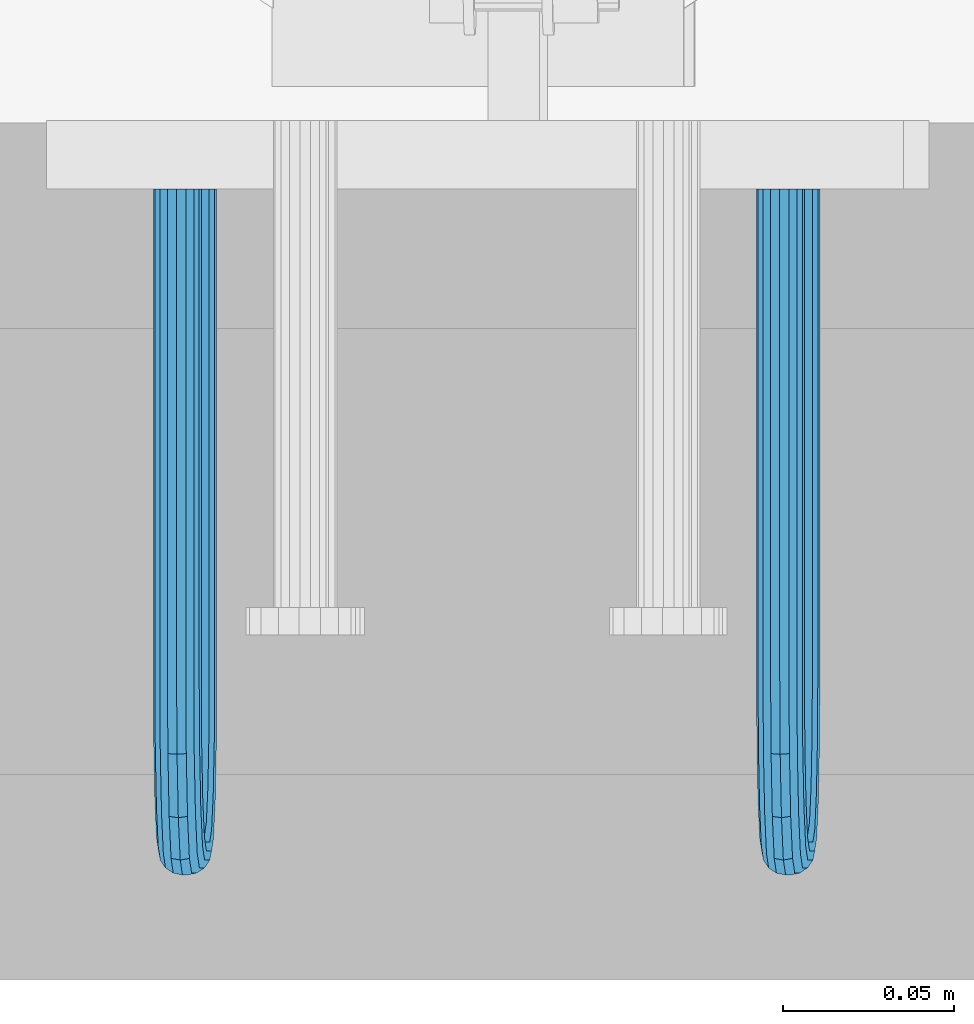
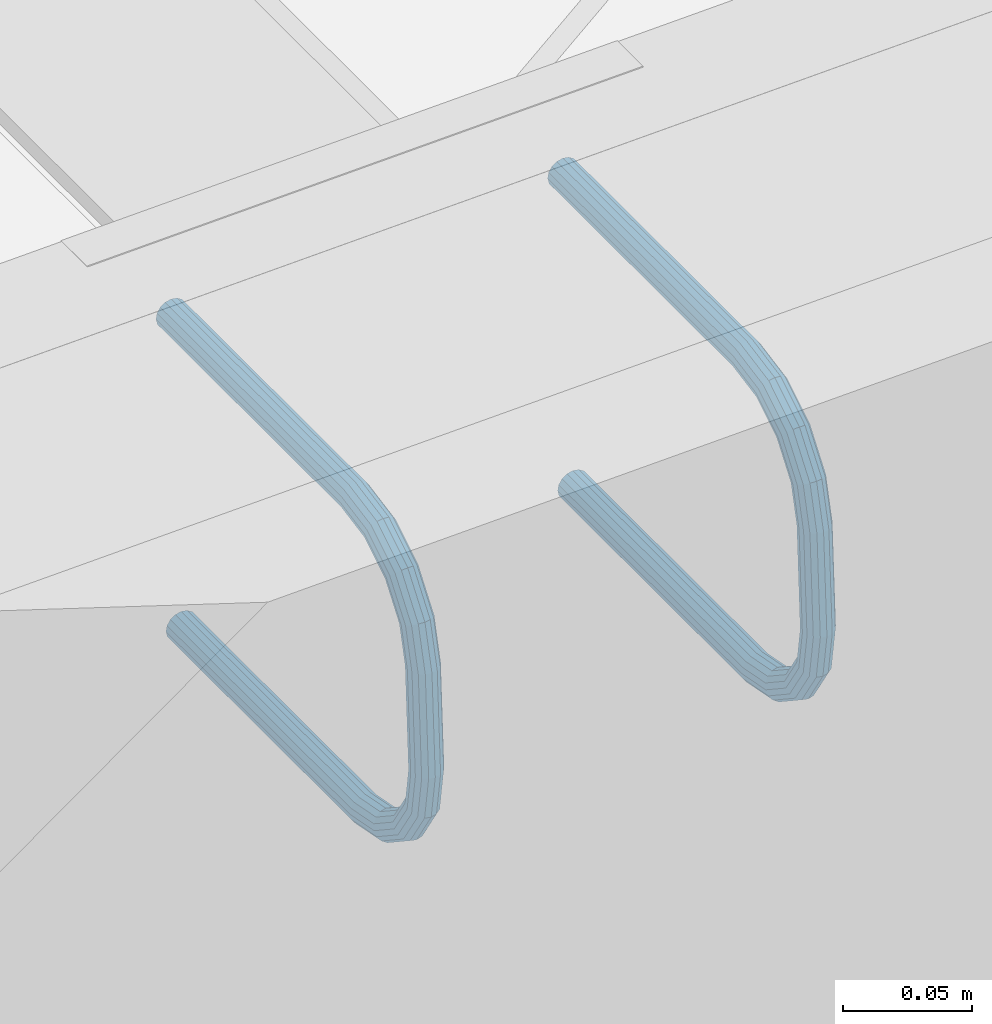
# One storey, part 81 of 476: 2 beams.
"""IFC2X3 building model written with IfcOpenShell, lengths in millimetres."""

from ifc_helpers import new_model, entity, si_unit, converted_unit, origin_with_axes, place, context, project, spatial, faceted_brep, material, element, save


model = new_model("IFC2X3")

# Units and contexts
model_context = context("Model", 3, precision=1e-09, world=origin_with_axes())
ifc_project = project(units=[si_unit("LENGTHUNIT", "METRE", prefix="MILLI"), si_unit("AREAUNIT", "SQUARE_METRE"), si_unit("VOLUMEUNIT", "CUBIC_METRE"), converted_unit("PLANEANGLEUNIT", "DEGREE", entity("IfcPlaneAngleMeasure", 0.01745329), si_unit("PLANEANGLEUNIT", "RADIAN"), dimensions=[0, 0, 0, 0, 0, 0, 0])], contexts=[model_context])

# Site, building, storey
site_placement = place(None, origin_with_axes())
site = spatial("IfcSite", under=ifc_project, at=site_placement, Name="mKR Teilneubau & Sanierung BA1 - Ostfildern", CompositionType="ELEMENT")
building_placement = place(site_placement, origin_with_axes())
building = spatial("IfcBuilding", under=site, at=building_placement, Name="Struktur 1", CompositionType="ELEMENT")
storey_placement = place(building_placement, origin_with_axes())
storey = spatial("IfcBuildingStorey", under=building, at=storey_placement, Name="Default Storey", CompositionType="ELEMENT", Elevation=0.0)

# Beams
ifc_material = material(Name="S235JR")
beam_1_placement = place(None, origin_with_axes())
element("IfcBeam", 1, at=beam_1_placement, inside=storey, material=ifc_material, Name="-", ObjectType="-", context=model_context, shape_type="Brep", body=[
    faceted_brep([(18425.706720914, -23549.67387897, 5400.497229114), (18427.931073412, -23549.67387897, 5402.082177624), (18430.592640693, -23549.67387897, 5402.695256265), (18433.286223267, -23549.67387897, 5402.24312937), (18435.601747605, -23549.67387897, 5400.794629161), (18437.186696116, -23549.67387897, 5398.570276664), (18437.799774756, -23549.67387897, 5395.908709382), (18437.347647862, -23549.67387897, 5393.215126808), (18435.899147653, -23549.67387897, 5390.89960247), (18433.674795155, -23549.67387897, 5389.314653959), (18431.013227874, -23549.67387897, 5388.701575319), (18428.319645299, -23549.67387897, 5389.153702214), (18426.004120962, -23549.67387897, 5390.602202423), (18424.419172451, -23549.67387897, 5392.82655492), (18423.80609381, -23549.67387897, 5395.488122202), (18424.258220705, -23549.67387897, 5398.181704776), (18423.813354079, -23549.67387897, 5539.085998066), (18421.497829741, -23549.67387897, 5540.534498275), (18419.912881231, -23549.67387897, 5542.758850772), (18419.29980259, -23549.67387897, 5545.420418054), (18419.751929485, -23549.67387897, 5548.114000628), (18421.200429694, -23549.67387897, 5550.429524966), (18423.424782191, -23549.67387897, 5552.014473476), (18426.086349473, -23549.67387897, 5552.627552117), (18428.779932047, -23549.67387897, 5552.175425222), (18431.095456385, -23549.67387897, 5550.726925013), (18432.680404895, -23549.67387897, 5548.502572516), (18433.293483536, -23549.67387897, 5545.841005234), (18432.841356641, -23549.67387897, 5543.14742266), (18431.392856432, -23549.67387897, 5540.831898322), (18429.168503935, -23549.67387897, 5539.246949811), (18426.506936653, -23549.67387897, 5538.633871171), (18425.706720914, -23692.67387897, 5400.497229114), (18427.931073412, -23692.67387897, 5402.082177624), (18424.258220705, -23692.67387897, 5398.181704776), (18423.80609381, -23692.67387897, 5395.488122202), (18424.419172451, -23692.67387897, 5392.82655492), (18426.004120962, -23692.67387897, 5390.602202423), (18428.319645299, -23692.67387897, 5389.153702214), (18431.013227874, -23692.67387897, 5388.701575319), (18433.674795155, -23692.67387897, 5389.314653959), (18435.899147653, -23692.67387897, 5390.89960247), (18437.347647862, -23692.67387897, 5393.215126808), (18437.799774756, -23692.67387897, 5395.908709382), (18437.186696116, -23692.67387897, 5398.570276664), (18435.601747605, -23692.67387897, 5400.794629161), (18433.286223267, -23692.67387897, 5402.24312937), (18430.592640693, -23692.67387897, 5402.695256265), (18425.603699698, -23709.913864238, 5403.924927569), (18427.831522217, -23709.333176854, 5405.394422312), (18424.150006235, -23710.782924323, 5401.782192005), (18423.691753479, -23711.808050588, 5399.292427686), (18424.298706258, -23712.833176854, 5396.834678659), (18425.878461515, -23713.702236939, 5394.783114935), (18428.190515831, -23714.282924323, 5393.450068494), (18430.882879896, -23714.486834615, 5393.038483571), (18433.545665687, -23714.282924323, 5393.61102024), (18435.773488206, -23713.702236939, 5395.080514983), (18437.227181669, -23712.833176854, 5397.223250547), (18437.685434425, -23711.808050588, 5399.713014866), (18437.078481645, -23710.782924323, 5402.170763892), (18435.498726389, -23709.913864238, 5404.222327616), (18433.186672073, -23709.333176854, 5405.555374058), (18430.494308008, -23709.129266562, 5405.966958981), (18425.310320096, -23724.52921803, 5413.686186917), (18427.5480244, -23723.456247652, 5414.826897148), (18423.841837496, -23726.135031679, 5412.035512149), (18423.366139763, -23728.02921803, 5410.126173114), (18423.955647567, -23729.92340438, 5408.248849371), (18425.520613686, -23731.52921803, 5406.689346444), (18427.822786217, -23732.602188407, 5405.685084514), (18430.51168026, -23732.978965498, 5405.388953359), (18433.177936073, -23732.602188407, 5405.84603626), (18435.415640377, -23731.52921803, 5406.986746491), (18436.884122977, -23729.92340438, 5408.637421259), (18437.35982071, -23728.02921803, 5410.546760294), (18436.770312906, -23726.135031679, 5412.424084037), (18435.205346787, -23724.52921803, 5413.983586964), (18432.903174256, -23723.456247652, 5414.987848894), (18430.214280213, -23723.079470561, 5415.283980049), (18424.871246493, -23734.294885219, 5428.294943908), (18427.123739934, -23732.892981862, 5428.943593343), (18423.380630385, -23736.392981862, 5427.380690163), (18422.878824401, -23738.867855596, 5426.340018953), (18423.442223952, -23741.34272933, 5425.331363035), (18424.985056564, -23743.440825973, 5424.50828113), (18427.272439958, -23744.84272933, 5423.996079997), (18429.956140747, -23745.335012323, 5423.872737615), (18432.627589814, -23744.84272933, 5424.157031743), (18434.880083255, -23743.440825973, 5424.805681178), (18436.370699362, -23741.34272933, 5425.719934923), (18436.872505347, -23738.867855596, 5426.760606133), (18436.309105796, -23736.392981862, 5427.769262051), (18434.766273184, -23734.294885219, 5428.592343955), (18432.47888979, -23732.892981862, 5429.104545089), (18429.795189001, -23732.400698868, 5429.227887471), (18424.353323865, -23737.724131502, 5445.527147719), (18426.623262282, -23736.206722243, 5445.59537187), (18422.836599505, -23739.995094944, 5445.481561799), (18422.303996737, -23742.67387897, 5445.465554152), (18422.836599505, -23745.352662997, 5445.481561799), (18424.353323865, -23747.623626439, 5445.527147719), (18426.623262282, -23749.141035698, 5445.59537187), (18429.30083721, -23749.67387897, 5445.675847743), (18431.978412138, -23749.141035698, 5445.756323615), (18434.248350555, -23747.623626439, 5445.824547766), (18435.765074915, -23745.352662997, 5445.870133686), (18436.297677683, -23742.67387897, 5445.886141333), (18435.765074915, -23739.995094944, 5445.870133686), (18434.248350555, -23737.724131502, 5445.824547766), (18431.978412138, -23736.206722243, 5445.756323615), (18429.30083721, -23735.67387897, 5445.675847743), (18422.851226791, -23737.724131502, 5495.504579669), (18425.121165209, -23736.206722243, 5495.57280382), (18421.334502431, -23739.995094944, 5495.458993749), (18420.801899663, -23742.67387897, 5495.442986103), (18421.334502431, -23745.352662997, 5495.458993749), (18422.851226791, -23747.623626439, 5495.504579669), (18425.121165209, -23749.141035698, 5495.57280382), (18427.798740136, -23749.67387897, 5495.653279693), (18430.476315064, -23749.141035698, 5495.733755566), (18432.746253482, -23747.623626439, 5495.801979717), (18434.262977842, -23745.352662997, 5495.847565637), (18434.79558061, -23742.67387897, 5495.863573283), (18434.262977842, -23739.995094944, 5495.847565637), (18432.746253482, -23737.724131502, 5495.801979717), (18430.476315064, -23736.206722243, 5495.733755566), (18427.798740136, -23735.67387897, 5495.653279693), (18422.333304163, -23734.294885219, 5512.73678348), (18424.620687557, -23732.892981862, 5512.224582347), (18420.790471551, -23736.392981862, 5513.559865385), (18420.227072, -23738.867855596, 5514.568521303), (18420.728877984, -23741.34272933, 5515.609192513), (18422.219494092, -23743.440825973, 5516.523446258), (18424.471987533, -23744.84272933, 5517.172095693), (18427.1434366, -23745.335012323, 5517.456389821), (18429.827137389, -23744.84272933, 5517.333047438), (18432.114520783, -23743.440825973, 5516.820846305), (18433.657353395, -23741.34272933, 5515.997764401), (18434.220752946, -23738.867855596, 5514.989108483), (18433.718946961, -23736.392981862, 5513.948437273), (18432.228330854, -23734.294885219, 5513.034183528), (18429.975837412, -23732.892981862, 5512.385534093), (18427.304388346, -23732.400698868, 5512.101239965), (18421.89423056, -23724.52921803, 5527.345540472), (18424.19640309, -23723.456247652, 5526.341278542), (18420.32926444, -23726.135031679, 5528.905043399), (18419.739756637, -23728.02921803, 5530.782367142), (18420.215454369, -23729.92340438, 5532.691706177), (18421.683936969, -23731.52921803, 5534.342380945), (18423.921641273, -23732.602188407, 5535.483091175), (18426.587897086, -23732.978965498, 5535.940174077), (18429.276791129, -23732.602188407, 5535.644042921), (18431.57896366, -23731.52921803, 5534.639780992), (18433.14392978, -23729.92340438, 5533.080278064), (18433.733437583, -23728.02921803, 5531.202954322), (18433.257739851, -23726.135031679, 5529.293615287), (18431.78925725, -23724.52921803, 5527.642940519), (18429.551552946, -23723.456247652, 5526.502230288), (18426.885297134, -23723.079470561, 5526.045147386), (18421.600850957, -23709.913864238, 5537.10679982), (18423.912905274, -23709.333176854, 5535.773753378), (18420.021095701, -23710.782924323, 5539.158363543), (18419.414142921, -23711.808050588, 5541.61611257), (18419.872395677, -23712.833176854, 5544.105876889), (18421.326089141, -23713.702236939, 5546.248612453), (18423.55391166, -23714.282924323, 5547.718107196), (18426.216697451, -23714.486834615, 5548.290643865), (18428.909061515, -23714.282924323, 5547.879058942), (18431.221115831, -23713.702236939, 5546.5460125), (18432.800871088, -23712.833176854, 5544.494448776), (18433.407823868, -23711.808050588, 5542.03669975), (18432.949571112, -23710.782924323, 5539.546935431), (18431.495877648, -23709.913864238, 5537.404199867), (18429.268055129, -23709.333176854, 5535.934705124), (18426.605269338, -23709.129266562, 5535.362168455), (18421.497829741, -23692.67387897, 5540.534498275), (18423.813354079, -23692.67387897, 5539.085998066), (18419.912881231, -23692.67387897, 5542.758850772), (18419.29980259, -23692.67387897, 5545.420418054), (18419.751929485, -23692.67387897, 5548.114000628), (18421.200429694, -23692.67387897, 5550.429524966), (18423.424782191, -23692.67387897, 5552.014473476), (18426.086349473, -23692.67387897, 5552.627552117), (18428.779932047, -23692.67387897, 5552.175425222), (18431.095456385, -23692.67387897, 5550.726925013), (18432.680404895, -23692.67387897, 5548.502572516), (18433.293483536, -23692.67387897, 5545.841005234), (18432.841356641, -23692.67387897, 5543.14742266), (18431.392856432, -23692.67387897, 5540.831898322), (18429.168503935, -23692.67387897, 5539.246949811), (18426.506936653, -23692.67387897, 5538.633871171)], [[[0, 1, 2, 3, 4, 5, 6, 7, 8, 9, 10, 11, 12, 13, 14, 15]], [[16, 17, 18, 19, 20, 21, 22, 23, 24, 25, 26, 27, 28, 29, 30, 31]], [[1, 0, 32, 33]], [[0, 15, 34, 32]], [[15, 14, 35, 34]], [[14, 13, 36, 35]], [[13, 12, 37, 36]], [[12, 11, 38, 37]], [[11, 10, 39, 38]], [[10, 9, 40, 39]], [[9, 8, 41, 40]], [[8, 7, 42, 41]], [[7, 6, 43, 42]], [[6, 5, 44, 43]], [[5, 4, 45, 44]], [[4, 3, 46, 45]], [[3, 2, 47, 46]], [[2, 1, 33, 47]], [[33, 32, 48, 49]], [[32, 34, 50, 48]], [[34, 35, 51, 50]], [[35, 36, 52, 51]], [[36, 37, 53, 52]], [[37, 38, 54, 53]], [[38, 39, 55, 54]], [[39, 40, 56, 55]], [[40, 41, 57, 56]], [[41, 42, 58, 57]], [[42, 43, 59, 58]], [[43, 44, 60, 59]], [[44, 45, 61, 60]], [[45, 46, 62, 61]], [[46, 47, 63, 62]], [[47, 33, 49, 63]], [[49, 48, 64, 65]], [[48, 50, 66, 64]], [[50, 51, 67, 66]], [[51, 52, 68, 67]], [[52, 53, 69, 68]], [[53, 54, 70, 69]], [[54, 55, 71, 70]], [[55, 56, 72, 71]], [[56, 57, 73, 72]], [[57, 58, 74, 73]], [[58, 59, 75, 74]], [[59, 60, 76, 75]], [[60, 61, 77, 76]], [[61, 62, 78, 77]], [[62, 63, 79, 78]], [[63, 49, 65, 79]], [[65, 64, 80, 81]], [[64, 66, 82, 80]], [[66, 67, 83, 82]], [[67, 68, 84, 83]], [[68, 69, 85, 84]], [[69, 70, 86, 85]], [[70, 71, 87, 86]], [[71, 72, 88, 87]], [[72, 73, 89, 88]], [[73, 74, 90, 89]], [[74, 75, 91, 90]], [[75, 76, 92, 91]], [[76, 77, 93, 92]], [[77, 78, 94, 93]], [[78, 79, 95, 94]], [[79, 65, 81, 95]], [[81, 80, 96, 97]], [[80, 82, 98, 96]], [[82, 83, 99, 98]], [[83, 84, 100, 99]], [[84, 85, 101, 100]], [[85, 86, 102, 101]], [[86, 87, 103, 102]], [[87, 88, 104, 103]], [[88, 89, 105, 104]], [[89, 90, 106, 105]], [[90, 91, 107, 106]], [[91, 92, 108, 107]], [[92, 93, 109, 108]], [[93, 94, 110, 109]], [[94, 95, 111, 110]], [[95, 81, 97, 111]], [[97, 96, 112, 113]], [[96, 98, 114, 112]], [[98, 99, 115, 114]], [[99, 100, 116, 115]], [[100, 101, 117, 116]], [[101, 102, 118, 117]], [[102, 103, 119, 118]], [[103, 104, 120, 119]], [[104, 105, 121, 120]], [[105, 106, 122, 121]], [[106, 107, 123, 122]], [[107, 108, 124, 123]], [[108, 109, 125, 124]], [[109, 110, 126, 125]], [[110, 111, 127, 126]], [[111, 97, 113, 127]], [[113, 112, 128, 129]], [[112, 114, 130, 128]], [[114, 115, 131, 130]], [[115, 116, 132, 131]], [[116, 117, 133, 132]], [[117, 118, 134, 133]], [[118, 119, 135, 134]], [[119, 120, 136, 135]], [[120, 121, 137, 136]], [[121, 122, 138, 137]], [[122, 123, 139, 138]], [[123, 124, 140, 139]], [[124, 125, 141, 140]], [[125, 126, 142, 141]], [[126, 127, 143, 142]], [[127, 113, 129, 143]], [[129, 128, 144, 145]], [[128, 130, 146, 144]], [[130, 131, 147, 146]], [[131, 132, 148, 147]], [[132, 133, 149, 148]], [[133, 134, 150, 149]], [[134, 135, 151, 150]], [[135, 136, 152, 151]], [[136, 137, 153, 152]], [[137, 138, 154, 153]], [[138, 139, 155, 154]], [[139, 140, 156, 155]], [[140, 141, 157, 156]], [[141, 142, 158, 157]], [[142, 143, 159, 158]], [[143, 129, 145, 159]], [[145, 144, 160, 161]], [[144, 146, 162, 160]], [[146, 147, 163, 162]], [[147, 148, 164, 163]], [[148, 149, 165, 164]], [[149, 150, 166, 165]], [[150, 151, 167, 166]], [[151, 152, 168, 167]], [[152, 153, 169, 168]], [[153, 154, 170, 169]], [[154, 155, 171, 170]], [[155, 156, 172, 171]], [[156, 157, 173, 172]], [[157, 158, 174, 173]], [[158, 159, 175, 174]], [[159, 145, 161, 175]], [[161, 160, 176, 177]], [[160, 162, 178, 176]], [[162, 163, 179, 178]], [[163, 164, 180, 179]], [[164, 165, 181, 180]], [[165, 166, 182, 181]], [[166, 167, 183, 182]], [[167, 168, 184, 183]], [[168, 169, 185, 184]], [[169, 170, 186, 185]], [[170, 171, 187, 186]], [[171, 172, 188, 187]], [[172, 173, 189, 188]], [[173, 174, 190, 189]], [[174, 175, 191, 190]], [[175, 161, 177, 191]], [[177, 176, 17, 16]], [[176, 178, 18, 17]], [[178, 179, 19, 18]], [[179, 180, 20, 19]], [[180, 181, 21, 20]], [[181, 182, 22, 21]], [[182, 183, 23, 22]], [[183, 184, 24, 23]], [[184, 185, 25, 24]], [[185, 186, 26, 25]], [[186, 187, 27, 26]], [[187, 188, 28, 27]], [[188, 189, 29, 28]], [[189, 190, 30, 29]], [[190, 191, 31, 30]], [[191, 177, 16, 31]]]),
])
beam_2_placement = place(None, origin_with_axes())
element("IfcBeam", 2, at=beam_2_placement, inside=storey, material=ifc_material, Name="-", ObjectType="-", context=model_context, shape_type="Brep", body=[
    faceted_brep([(18601.627281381, -23549.67387897, 5405.784610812), (18603.851633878, -23549.67387897, 5407.369559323), (18606.513201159, -23549.67387897, 5407.982637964), (18609.206783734, -23549.67387897, 5407.530511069), (18611.522308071, -23549.67387897, 5406.08201086), (18613.107256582, -23549.67387897, 5403.857658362), (18613.720335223, -23549.67387897, 5401.196091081), (18613.268208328, -23549.67387897, 5398.502508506), (18611.819708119, -23549.67387897, 5396.186984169), (18609.595355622, -23549.67387897, 5394.602035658), (18606.93378834, -23549.67387897, 5393.988957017), (18604.240205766, -23549.67387897, 5394.441083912), (18601.924681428, -23549.67387897, 5395.889584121), (18600.339732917, -23549.67387897, 5398.113936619), (18599.726654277, -23549.67387897, 5400.7755039), (18600.178781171, -23549.67387897, 5403.469086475), (18599.733914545, -23549.67387897, 5544.373379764), (18597.418390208, -23549.67387897, 5545.821879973), (18595.833441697, -23549.67387897, 5548.046232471), (18595.220363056, -23549.67387897, 5550.707799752), (18595.672489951, -23549.67387897, 5553.401382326), (18597.12099016, -23549.67387897, 5555.716906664), (18599.345342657, -23549.67387897, 5557.301855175), (18602.006909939, -23549.67387897, 5557.914933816), (18604.700492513, -23549.67387897, 5557.462806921), (18607.016016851, -23549.67387897, 5556.014306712), (18608.600965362, -23549.67387897, 5553.789954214), (18609.214044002, -23549.67387897, 5551.128386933), (18608.761917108, -23549.67387897, 5548.434804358), (18607.313416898, -23549.67387897, 5546.119280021), (18605.089064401, -23549.67387897, 5544.53433151), (18602.42749712, -23549.67387897, 5543.921252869), (18601.627281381, -23692.67387897, 5405.784610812), (18603.851633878, -23692.67387897, 5407.369559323), (18600.178781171, -23692.67387897, 5403.469086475), (18599.726654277, -23692.67387897, 5400.7755039), (18600.339732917, -23692.67387897, 5398.113936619), (18601.924681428, -23692.67387897, 5395.889584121), (18604.240205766, -23692.67387897, 5394.441083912), (18606.93378834, -23692.67387897, 5393.988957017), (18609.595355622, -23692.67387897, 5394.602035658), (18611.819708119, -23692.67387897, 5396.186984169), (18613.268208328, -23692.67387897, 5398.502508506), (18613.720335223, -23692.67387897, 5401.196091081), (18613.107256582, -23692.67387897, 5403.857658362), (18611.522308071, -23692.67387897, 5406.08201086), (18609.206783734, -23692.67387897, 5407.530511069), (18606.513201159, -23692.67387897, 5407.982637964), (18601.524260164, -23709.913864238, 5409.212309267), (18603.752082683, -23709.333176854, 5410.681804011), (18600.070566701, -23710.782924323, 5407.069573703), (18599.612313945, -23711.808050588, 5404.579809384), (18600.219266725, -23712.833176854, 5402.122060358), (18601.799021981, -23713.702236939, 5400.070496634), (18604.111076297, -23714.282924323, 5398.737450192), (18606.803440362, -23714.486834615, 5398.325865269), (18609.466226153, -23714.282924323, 5398.898401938), (18611.694048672, -23713.702236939, 5400.367896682), (18613.147742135, -23712.833176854, 5402.510632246), (18613.605994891, -23711.808050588, 5405.000396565), (18612.999042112, -23710.782924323, 5407.458145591), (18611.419286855, -23709.913864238, 5409.509709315), (18609.107232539, -23709.333176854, 5410.842755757), (18606.414868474, -23709.129266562, 5411.25434068), (18601.230880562, -23724.52921803, 5418.973568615), (18603.468584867, -23723.456247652, 5420.114278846), (18599.762397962, -23726.135031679, 5417.322893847), (18599.28670023, -23728.02921803, 5415.413554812), (18599.876208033, -23729.92340438, 5413.53623107), (18601.441174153, -23731.52921803, 5411.976728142), (18603.743346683, -23732.602188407, 5410.972466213), (18606.432240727, -23732.978965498, 5410.676335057), (18609.098496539, -23732.602188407, 5411.133417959), (18611.336200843, -23731.52921803, 5412.27412819), (18612.804683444, -23729.92340438, 5413.924802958), (18613.280381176, -23728.02921803, 5415.834141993), (18612.690873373, -23726.135031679, 5417.711465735), (18611.125907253, -23724.52921803, 5419.270968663), (18608.823734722, -23723.456247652, 5420.275230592), (18606.134840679, -23723.079470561, 5420.571361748), (18600.791806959, -23734.294885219, 5433.582325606), (18603.0443004, -23732.892981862, 5434.230975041), (18599.301190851, -23736.392981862, 5432.668071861), (18598.799384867, -23738.867855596, 5431.627400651), (18599.362784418, -23741.34272933, 5430.618744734), (18600.90561703, -23743.440825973, 5429.795662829), (18603.193000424, -23744.84272933, 5429.283461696), (18605.876701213, -23745.335012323, 5429.160119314), (18608.54815028, -23744.84272933, 5429.444413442), (18610.800643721, -23743.440825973, 5430.093062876), (18612.291259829, -23741.34272933, 5431.007316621), (18612.793065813, -23738.867855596, 5432.047987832), (18612.229666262, -23736.392981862, 5433.056643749), (18610.68683365, -23734.294885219, 5433.879725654), (18608.399450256, -23732.892981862, 5434.391926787), (18605.715749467, -23732.400698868, 5434.515269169), (18600.273884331, -23737.724131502, 5450.814529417), (18602.543822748, -23736.206722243, 5450.882753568), (18598.757159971, -23739.995094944, 5450.768943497), (18598.224557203, -23742.67387897, 5450.752935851), (18598.757159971, -23745.352662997, 5450.768943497), (18600.273884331, -23747.623626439, 5450.814529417), (18602.543822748, -23749.141035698, 5450.882753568), (18605.221397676, -23749.67387897, 5450.963229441), (18607.898972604, -23749.141035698, 5451.043705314), (18610.168911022, -23747.623626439, 5451.111929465), (18611.685635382, -23745.352662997, 5451.157515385), (18612.218238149, -23742.67387897, 5451.173523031), (18611.685635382, -23739.995094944, 5451.157515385), (18610.168911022, -23737.724131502, 5451.111929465), (18607.898972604, -23736.206722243, 5451.043705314), (18605.221397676, -23735.67387897, 5450.963229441), (18598.771787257, -23737.724131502, 5500.791961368), (18601.041725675, -23736.206722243, 5500.860185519), (18597.255062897, -23739.995094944, 5500.746375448), (18596.72246013, -23742.67387897, 5500.730367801), (18597.255062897, -23745.352662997, 5500.746375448), (18598.771787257, -23747.623626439, 5500.791961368), (18601.041725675, -23749.141035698, 5500.860185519), (18603.719300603, -23749.67387897, 5500.940661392), (18606.396875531, -23749.141035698, 5501.021137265), (18608.666813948, -23747.623626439, 5501.089361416), (18610.183538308, -23745.352662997, 5501.134947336), (18610.716141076, -23742.67387897, 5501.150954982), (18610.183538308, -23739.995094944, 5501.134947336), (18608.666813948, -23737.724131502, 5501.089361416), (18606.396875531, -23736.206722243, 5501.021137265), (18603.719300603, -23735.67387897, 5500.940661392), (18598.253864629, -23734.294885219, 5518.024165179), (18600.541248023, -23732.892981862, 5517.511964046), (18596.711032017, -23736.392981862, 5518.847247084), (18596.147632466, -23738.867855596, 5519.855903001), (18596.64943845, -23741.34272933, 5520.896574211), (18598.140054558, -23743.440825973, 5521.810827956), (18600.392547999, -23744.84272933, 5522.459477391), (18603.063997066, -23745.335012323, 5522.743771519), (18605.747697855, -23744.84272933, 5522.620429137), (18608.035081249, -23743.440825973, 5522.108228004), (18609.577913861, -23741.34272933, 5521.285146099), (18610.141313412, -23738.867855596, 5520.276490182), (18609.639507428, -23736.392981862, 5519.235818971), (18608.14889132, -23734.294885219, 5518.321565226), (18605.896397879, -23732.892981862, 5517.672915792), (18603.224948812, -23732.400698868, 5517.388621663), (18597.814791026, -23724.52921803, 5532.63292217), (18600.116963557, -23723.456247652, 5531.628660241), (18596.249824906, -23726.135031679, 5534.192425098), (18595.660317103, -23728.02921803, 5536.06974884), (18596.136014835, -23729.92340438, 5537.979087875), (18597.604497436, -23731.52921803, 5539.629762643), (18599.84220174, -23732.602188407, 5540.770472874), (18602.508457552, -23732.978965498, 5541.227555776), (18605.197351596, -23732.602188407, 5540.93142462), (18607.499524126, -23731.52921803, 5539.927162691), (18609.064490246, -23729.92340438, 5538.367659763), (18609.653998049, -23728.02921803, 5536.490336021), (18609.178300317, -23726.135031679, 5534.580996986), (18607.709817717, -23724.52921803, 5532.930322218), (18605.472113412, -23723.456247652, 5531.789611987), (18602.8058576, -23723.079470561, 5531.332529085), (18597.521411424, -23709.913864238, 5542.394181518), (18599.83346574, -23709.333176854, 5541.061135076), (18595.941656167, -23710.782924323, 5544.445745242), (18595.334703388, -23711.808050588, 5546.903494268), (18595.792956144, -23712.833176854, 5549.393258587), (18597.246649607, -23713.702236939, 5551.535994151), (18599.474472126, -23714.282924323, 5553.005488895), (18602.137257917, -23714.486834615, 5553.578025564), (18604.829621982, -23714.282924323, 5553.166440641), (18607.141676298, -23713.702236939, 5551.833394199), (18608.721431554, -23712.833176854, 5549.781830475), (18609.328384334, -23711.808050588, 5547.324081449), (18608.870131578, -23710.782924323, 5544.83431713), (18607.416438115, -23709.913864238, 5542.691581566), (18605.188615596, -23709.333176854, 5541.222086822), (18602.525829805, -23709.129266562, 5540.649550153), (18597.418390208, -23692.67387897, 5545.821879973), (18599.733914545, -23692.67387897, 5544.373379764), (18595.833441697, -23692.67387897, 5548.046232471), (18595.220363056, -23692.67387897, 5550.707799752), (18595.672489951, -23692.67387897, 5553.401382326), (18597.12099016, -23692.67387897, 5555.716906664), (18599.345342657, -23692.67387897, 5557.301855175), (18602.006909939, -23692.67387897, 5557.914933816), (18604.700492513, -23692.67387897, 5557.462806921), (18607.016016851, -23692.67387897, 5556.014306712), (18608.600965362, -23692.67387897, 5553.789954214), (18609.214044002, -23692.67387897, 5551.128386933), (18608.761917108, -23692.67387897, 5548.434804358), (18607.313416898, -23692.67387897, 5546.119280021), (18605.089064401, -23692.67387897, 5544.53433151), (18602.42749712, -23692.67387897, 5543.921252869)], [[[0, 1, 2, 3, 4, 5, 6, 7, 8, 9, 10, 11, 12, 13, 14, 15]], [[16, 17, 18, 19, 20, 21, 22, 23, 24, 25, 26, 27, 28, 29, 30, 31]], [[1, 0, 32, 33]], [[0, 15, 34, 32]], [[15, 14, 35, 34]], [[14, 13, 36, 35]], [[13, 12, 37, 36]], [[12, 11, 38, 37]], [[11, 10, 39, 38]], [[10, 9, 40, 39]], [[9, 8, 41, 40]], [[8, 7, 42, 41]], [[7, 6, 43, 42]], [[6, 5, 44, 43]], [[5, 4, 45, 44]], [[4, 3, 46, 45]], [[3, 2, 47, 46]], [[2, 1, 33, 47]], [[33, 32, 48, 49]], [[32, 34, 50, 48]], [[34, 35, 51, 50]], [[35, 36, 52, 51]], [[36, 37, 53, 52]], [[37, 38, 54, 53]], [[38, 39, 55, 54]], [[39, 40, 56, 55]], [[40, 41, 57, 56]], [[41, 42, 58, 57]], [[42, 43, 59, 58]], [[43, 44, 60, 59]], [[44, 45, 61, 60]], [[45, 46, 62, 61]], [[46, 47, 63, 62]], [[47, 33, 49, 63]], [[49, 48, 64, 65]], [[48, 50, 66, 64]], [[50, 51, 67, 66]], [[51, 52, 68, 67]], [[52, 53, 69, 68]], [[53, 54, 70, 69]], [[54, 55, 71, 70]], [[55, 56, 72, 71]], [[56, 57, 73, 72]], [[57, 58, 74, 73]], [[58, 59, 75, 74]], [[59, 60, 76, 75]], [[60, 61, 77, 76]], [[61, 62, 78, 77]], [[62, 63, 79, 78]], [[63, 49, 65, 79]], [[65, 64, 80, 81]], [[64, 66, 82, 80]], [[66, 67, 83, 82]], [[67, 68, 84, 83]], [[68, 69, 85, 84]], [[69, 70, 86, 85]], [[70, 71, 87, 86]], [[71, 72, 88, 87]], [[72, 73, 89, 88]], [[73, 74, 90, 89]], [[74, 75, 91, 90]], [[75, 76, 92, 91]], [[76, 77, 93, 92]], [[77, 78, 94, 93]], [[78, 79, 95, 94]], [[79, 65, 81, 95]], [[81, 80, 96, 97]], [[80, 82, 98, 96]], [[82, 83, 99, 98]], [[83, 84, 100, 99]], [[84, 85, 101, 100]], [[85, 86, 102, 101]], [[86, 87, 103, 102]], [[87, 88, 104, 103]], [[88, 89, 105, 104]], [[89, 90, 106, 105]], [[90, 91, 107, 106]], [[91, 92, 108, 107]], [[92, 93, 109, 108]], [[93, 94, 110, 109]], [[94, 95, 111, 110]], [[95, 81, 97, 111]], [[97, 96, 112, 113]], [[96, 98, 114, 112]], [[98, 99, 115, 114]], [[99, 100, 116, 115]], [[100, 101, 117, 116]], [[101, 102, 118, 117]], [[102, 103, 119, 118]], [[103, 104, 120, 119]], [[104, 105, 121, 120]], [[105, 106, 122, 121]], [[106, 107, 123, 122]], [[107, 108, 124, 123]], [[108, 109, 125, 124]], [[109, 110, 126, 125]], [[110, 111, 127, 126]], [[111, 97, 113, 127]], [[113, 112, 128, 129]], [[112, 114, 130, 128]], [[114, 115, 131, 130]], [[115, 116, 132, 131]], [[116, 117, 133, 132]], [[117, 118, 134, 133]], [[118, 119, 135, 134]], [[119, 120, 136, 135]], [[120, 121, 137, 136]], [[121, 122, 138, 137]], [[122, 123, 139, 138]], [[123, 124, 140, 139]], [[124, 125, 141, 140]], [[125, 126, 142, 141]], [[126, 127, 143, 142]], [[127, 113, 129, 143]], [[129, 128, 144, 145]], [[128, 130, 146, 144]], [[130, 131, 147, 146]], [[131, 132, 148, 147]], [[132, 133, 149, 148]], [[133, 134, 150, 149]], [[134, 135, 151, 150]], [[135, 136, 152, 151]], [[136, 137, 153, 152]], [[137, 138, 154, 153]], [[138, 139, 155, 154]], [[139, 140, 156, 155]], [[140, 141, 157, 156]], [[141, 142, 158, 157]], [[142, 143, 159, 158]], [[143, 129, 145, 159]], [[145, 144, 160, 161]], [[144, 146, 162, 160]], [[146, 147, 163, 162]], [[147, 148, 164, 163]], [[148, 149, 165, 164]], [[149, 150, 166, 165]], [[150, 151, 167, 166]], [[151, 152, 168, 167]], [[152, 153, 169, 168]], [[153, 154, 170, 169]], [[154, 155, 171, 170]], [[155, 156, 172, 171]], [[156, 157, 173, 172]], [[157, 158, 174, 173]], [[158, 159, 175, 174]], [[159, 145, 161, 175]], [[161, 160, 176, 177]], [[160, 162, 178, 176]], [[162, 163, 179, 178]], [[163, 164, 180, 179]], [[164, 165, 181, 180]], [[165, 166, 182, 181]], [[166, 167, 183, 182]], [[167, 168, 184, 183]], [[168, 169, 185, 184]], [[169, 170, 186, 185]], [[170, 171, 187, 186]], [[171, 172, 188, 187]], [[172, 173, 189, 188]], [[173, 174, 190, 189]], [[174, 175, 191, 190]], [[175, 161, 177, 191]], [[177, 176, 17, 16]], [[176, 178, 18, 17]], [[178, 179, 19, 18]], [[179, 180, 20, 19]], [[180, 181, 21, 20]], [[181, 182, 22, 21]], [[182, 183, 23, 22]], [[183, 184, 24, 23]], [[184, 185, 25, 24]], [[185, 186, 26, 25]], [[186, 187, 27, 26]], [[187, 188, 28, 27]], [[188, 189, 29, 28]], [[189, 190, 30, 29]], [[190, 191, 31, 30]], [[191, 177, 16, 31]]]),
])

save(model, "model.ifc")
